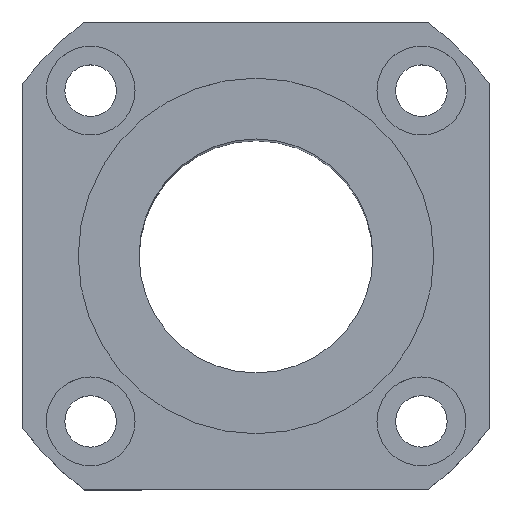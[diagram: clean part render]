
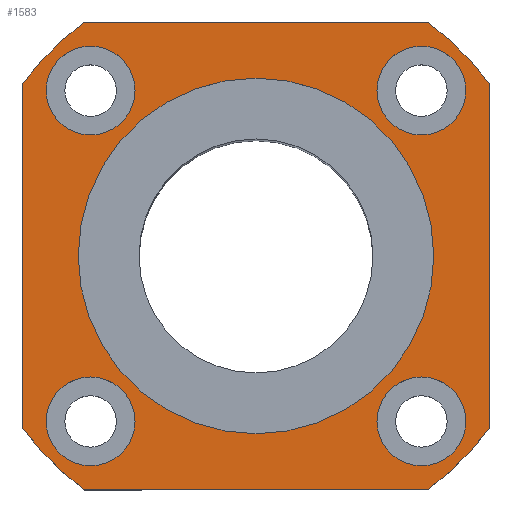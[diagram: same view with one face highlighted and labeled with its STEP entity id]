
A CAD part, top view. The second image highlights one B-rep face of the part: STEP entity #1583.
In plain terms, the highlighted planar face has unit normal (0, 0, 1).
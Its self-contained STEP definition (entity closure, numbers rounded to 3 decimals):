
#133=CARTESIAN_POINT('',(-19.0,0.,112.));
#134=VERTEX_POINT('',#133);
#143=CARTESIAN_POINT('',(19.0,0.,112.));
#144=VERTEX_POINT('',#143);
#145=CARTESIAN_POINT('',(0.0,0.0,112.));
#146=DIRECTION('',(0.0,0.0,-1.0));
#147=DIRECTION('',(-1.0,0.0,0.0));
#148=AXIS2_PLACEMENT_3D('',#145,#146,#147);
#149=CIRCLE('',#148,19.0);
#150=EDGE_CURVE('',#144,#134,#149,.T.);
#303=CARTESIAN_POINT('',(-12.928,17.678,112.));
#304=VERTEX_POINT('',#303);
#320=CARTESIAN_POINT('',(-22.428,17.678,112.0));
#321=VERTEX_POINT('',#320);
#328=CARTESIAN_POINT('',(-17.678,17.678,112.));
#329=DIRECTION('',(0.0,0.0,-1.0));
#330=DIRECTION('',(1.0,0.0,0.0));
#331=AXIS2_PLACEMENT_3D('',#328,#329,#330);
#332=CIRCLE('',#331,4.75);
#333=EDGE_CURVE('',#304,#321,#332,.T.);
#429=CARTESIAN_POINT('',(-17.678,-12.928,112.));
#430=VERTEX_POINT('',#429);
#446=CARTESIAN_POINT('',(-17.678,-22.428,112.0));
#447=VERTEX_POINT('',#446);
#454=CARTESIAN_POINT('',(-17.678,-17.678,112.));
#455=DIRECTION('',(0.0,0.0,-1.0));
#456=DIRECTION('',(0.0,1.0,0.0));
#457=AXIS2_PLACEMENT_3D('',#454,#455,#456);
#458=CIRCLE('',#457,4.75);
#459=EDGE_CURVE('',#430,#447,#458,.T.);
#555=CARTESIAN_POINT('',(12.928,-17.678,112.));
#556=VERTEX_POINT('',#555);
#572=CARTESIAN_POINT('',(22.428,-17.678,112.0));
#573=VERTEX_POINT('',#572);
#580=CARTESIAN_POINT('',(17.678,-17.678,112.));
#581=DIRECTION('',(0.0,0.0,-1.0));
#582=DIRECTION('',(-1.0,0.0,0.0));
#583=AXIS2_PLACEMENT_3D('',#580,#581,#582);
#584=CIRCLE('',#583,4.75);
#585=EDGE_CURVE('',#556,#573,#584,.T.);
#681=CARTESIAN_POINT('',(17.678,12.928,112.));
#682=VERTEX_POINT('',#681);
#698=CARTESIAN_POINT('',(17.678,22.428,112.0));
#699=VERTEX_POINT('',#698);
#706=CARTESIAN_POINT('',(17.678,17.678,112.));
#707=DIRECTION('',(0.0,0.0,-1.0));
#708=DIRECTION('',(0.0,-1.0,0.0));
#709=AXIS2_PLACEMENT_3D('',#706,#707,#708);
#710=CIRCLE('',#709,4.75);
#711=EDGE_CURVE('',#682,#699,#710,.T.);
#769=CARTESIAN_POINT('',(17.678,17.678,112.));
#770=DIRECTION('',(0.0,0.0,-1.0));
#771=DIRECTION('',(0.0,-1.0,0.0));
#772=AXIS2_PLACEMENT_3D('',#769,#770,#771);
#773=CIRCLE('',#772,4.75);
#774=EDGE_CURVE('',#699,#682,#773,.T.);
#873=CARTESIAN_POINT('',(17.678,-17.678,112.));
#874=DIRECTION('',(0.0,0.0,-1.0));
#875=DIRECTION('',(-1.0,0.0,0.0));
#876=AXIS2_PLACEMENT_3D('',#873,#874,#875);
#877=CIRCLE('',#876,4.75);
#878=EDGE_CURVE('',#573,#556,#877,.T.);
#977=CARTESIAN_POINT('',(-17.678,-17.678,112.));
#978=DIRECTION('',(0.0,0.0,-1.0));
#979=DIRECTION('',(0.0,1.0,0.0));
#980=AXIS2_PLACEMENT_3D('',#977,#978,#979);
#981=CIRCLE('',#980,4.75);
#982=EDGE_CURVE('',#447,#430,#981,.T.);
#1081=CARTESIAN_POINT('',(-17.678,17.678,112.));
#1082=DIRECTION('',(0.0,0.0,-1.0));
#1083=DIRECTION('',(1.0,0.0,0.0));
#1084=AXIS2_PLACEMENT_3D('',#1081,#1082,#1083);
#1085=CIRCLE('',#1084,4.75);
#1086=EDGE_CURVE('',#321,#304,#1085,.T.);
#1147=CARTESIAN_POINT('',(-25.,-18.33,112.));
#1148=VERTEX_POINT('',#1147);
#1155=CARTESIAN_POINT('',(-25.,18.33,112.));
#1156=VERTEX_POINT('',#1155);
#1157=CARTESIAN_POINT('',(-25.,18.33,112.));
#1158=DIRECTION('',(0.0,-1.0,0.0));
#1159=VECTOR('',#1158,36.661);
#1160=LINE('',#1157,#1159);
#1161=EDGE_CURVE('',#1156,#1148,#1160,.T.);
#1186=CARTESIAN_POINT('',(-18.33,-25.,112.));
#1187=VERTEX_POINT('',#1186);
#1194=CARTESIAN_POINT('',(0.0,0.0,112.));
#1195=DIRECTION('',(0.0,0.0,1.0));
#1196=DIRECTION('',(1.0,0.0,0.0));
#1197=AXIS2_PLACEMENT_3D('',#1194,#1195,#1196);
#1198=CIRCLE('',#1197,31.0);
#1199=EDGE_CURVE('',#1148,#1187,#1198,.T.);
#1218=CARTESIAN_POINT('',(18.33,-25.,112.));
#1219=VERTEX_POINT('',#1218);
#1226=CARTESIAN_POINT('',(-18.33,-25.,112.));
#1227=DIRECTION('',(1.0,0.0,0.0));
#1228=VECTOR('',#1227,36.661);
#1229=LINE('',#1226,#1228);
#1230=EDGE_CURVE('',#1187,#1219,#1229,.T.);
#1250=CARTESIAN_POINT('',(25.0,-18.33,112.));
#1251=VERTEX_POINT('',#1250);
#1258=CARTESIAN_POINT('',(0.0,0.0,112.));
#1259=DIRECTION('',(0.0,0.0,1.0));
#1260=DIRECTION('',(1.0,0.0,0.0));
#1261=AXIS2_PLACEMENT_3D('',#1258,#1259,#1260);
#1262=CIRCLE('',#1261,31.0);
#1263=EDGE_CURVE('',#1219,#1251,#1262,.T.);
#1282=CARTESIAN_POINT('',(25.0,18.33,112.));
#1283=VERTEX_POINT('',#1282);
#1290=CARTESIAN_POINT('',(25.0,-18.33,112.));
#1291=DIRECTION('',(0.0,1.0,0.0));
#1292=VECTOR('',#1291,36.661);
#1293=LINE('',#1290,#1292);
#1294=EDGE_CURVE('',#1251,#1283,#1293,.T.);
#1314=CARTESIAN_POINT('',(18.33,25.0,112.));
#1315=VERTEX_POINT('',#1314);
#1322=CARTESIAN_POINT('',(0.0,0.0,112.));
#1323=DIRECTION('',(0.0,0.0,1.0));
#1324=DIRECTION('',(1.0,0.0,0.0));
#1325=AXIS2_PLACEMENT_3D('',#1322,#1323,#1324);
#1326=CIRCLE('',#1325,31.0);
#1327=EDGE_CURVE('',#1283,#1315,#1326,.T.);
#1346=CARTESIAN_POINT('',(-18.33,25.0,112.));
#1347=VERTEX_POINT('',#1346);
#1354=CARTESIAN_POINT('',(18.33,25.0,112.));
#1355=DIRECTION('',(-1.0,0.0,0.0));
#1356=VECTOR('',#1355,36.661);
#1357=LINE('',#1354,#1356);
#1358=EDGE_CURVE('',#1315,#1347,#1357,.T.);
#1377=CARTESIAN_POINT('',(0.0,0.0,112.));
#1378=DIRECTION('',(0.0,0.0,1.0));
#1379=DIRECTION('',(1.0,0.0,0.0));
#1380=AXIS2_PLACEMENT_3D('',#1377,#1378,#1379);
#1381=CIRCLE('',#1380,31.0);
#1382=EDGE_CURVE('',#1347,#1156,#1381,.T.);
#1502=CARTESIAN_POINT('',(0.0,0.0,112.));
#1503=DIRECTION('',(0.0,0.0,-1.0));
#1504=DIRECTION('',(-1.0,0.0,0.0));
#1505=AXIS2_PLACEMENT_3D('',#1502,#1503,#1504);
#1506=CIRCLE('',#1505,19.0);
#1507=EDGE_CURVE('',#134,#144,#1506,.T.);
#1548=CARTESIAN_POINT('',(0.0,0.0,112.));
#1549=DIRECTION('',(0.0,0.0,-1.0));
#1550=DIRECTION('',(-1.0,0.0,0.0));
#1551=AXIS2_PLACEMENT_3D('',#1548,#1549,#1550);
#1552=PLANE('',#1551);
#1553=ORIENTED_EDGE('',*,*,#1382,.T.);
#1554=ORIENTED_EDGE('',*,*,#1161,.T.);
#1555=ORIENTED_EDGE('',*,*,#1199,.T.);
#1556=ORIENTED_EDGE('',*,*,#1230,.T.);
#1557=ORIENTED_EDGE('',*,*,#1263,.T.);
#1558=ORIENTED_EDGE('',*,*,#1294,.T.);
#1559=ORIENTED_EDGE('',*,*,#1327,.T.);
#1560=ORIENTED_EDGE('',*,*,#1358,.T.);
#1561=EDGE_LOOP('',(#1553,#1554,#1555,#1556,#1557,#1558,#1559,#1560));
#1562=FACE_OUTER_BOUND('',#1561,.T.);
#1563=ORIENTED_EDGE('',*,*,#711,.T.);
#1564=ORIENTED_EDGE('',*,*,#774,.T.);
#1565=EDGE_LOOP('',(#1563,#1564));
#1566=FACE_BOUND('',#1565,.T.);
#1567=ORIENTED_EDGE('',*,*,#585,.T.);
#1568=ORIENTED_EDGE('',*,*,#878,.T.);
#1569=EDGE_LOOP('',(#1567,#1568));
#1570=FACE_BOUND('',#1569,.T.);
#1571=ORIENTED_EDGE('',*,*,#459,.T.);
#1572=ORIENTED_EDGE('',*,*,#982,.T.);
#1573=EDGE_LOOP('',(#1571,#1572));
#1574=FACE_BOUND('',#1573,.T.);
#1575=ORIENTED_EDGE('',*,*,#333,.T.);
#1576=ORIENTED_EDGE('',*,*,#1086,.T.);
#1577=EDGE_LOOP('',(#1575,#1576));
#1578=FACE_BOUND('',#1577,.T.);
#1579=ORIENTED_EDGE('',*,*,#150,.T.);
#1580=ORIENTED_EDGE('',*,*,#1507,.T.);
#1581=EDGE_LOOP('',(#1579,#1580));
#1582=FACE_BOUND('',#1581,.T.);
#1583=ADVANCED_FACE('',(#1562,#1566,#1570,#1574,#1578,#1582),#1552,.F.);
